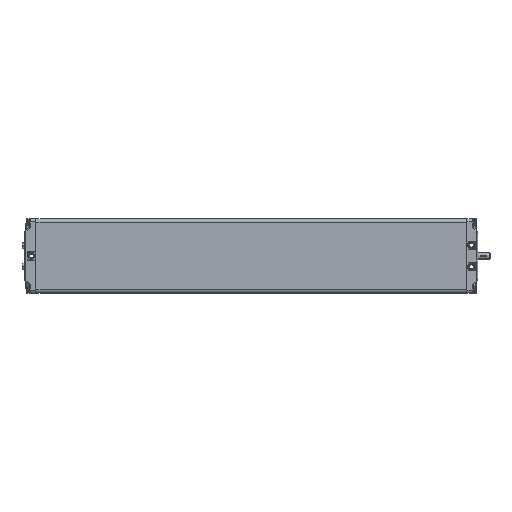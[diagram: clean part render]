
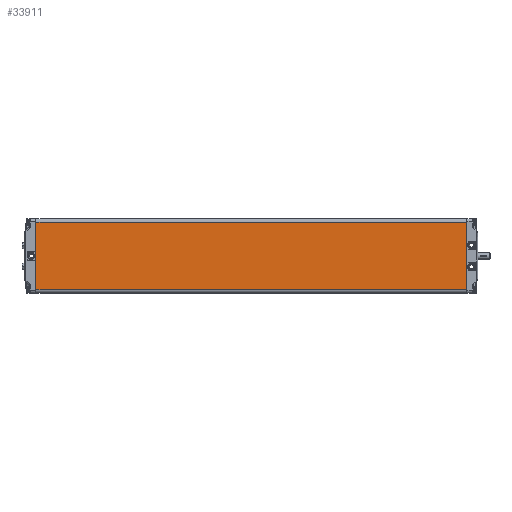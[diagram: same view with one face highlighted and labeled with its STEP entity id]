
A CAD part, top view. The second image highlights one B-rep face of the part: STEP entity #33911.
In plain terms, the highlighted planar face has unit normal (0, 0, 1).
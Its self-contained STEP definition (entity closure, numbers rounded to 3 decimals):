
#3531=LINE('',#72317,#4816);
#3532=LINE('',#72320,#4817);
#3533=LINE('',#72322,#4818);
#3534=LINE('',#72324,#4819);
#4816=VECTOR('',#41149,1000.);
#4817=VECTOR('',#41150,1000.);
#4818=VECTOR('',#41151,1000.);
#4819=VECTOR('',#41152,1000.);
#10116=ORIENTED_EDGE('',*,*,#16193,.T.);
#10117=ORIENTED_EDGE('',*,*,#16194,.T.);
#10118=ORIENTED_EDGE('',*,*,#16195,.T.);
#10119=ORIENTED_EDGE('',*,*,#16196,.T.);
#16193=EDGE_CURVE('',#19457,#19458,#3531,.F.);
#16194=EDGE_CURVE('',#19458,#19459,#3532,.T.);
#16195=EDGE_CURVE('',#19459,#19460,#3533,.T.);
#16196=EDGE_CURVE('',#19460,#19457,#3534,.F.);
#19457=VERTEX_POINT('',#72318);
#19458=VERTEX_POINT('',#72319);
#19459=VERTEX_POINT('',#72321);
#19460=VERTEX_POINT('',#72323);
#22955=EDGE_LOOP('',(#10116,#10117,#10118,#10119));
#24947=FACE_BOUND('',#22955,.T.);
#26093=PLANE('',#36180);
#33911=ADVANCED_FACE('',(#24947),#26093,.T.);
#36180=AXIS2_PLACEMENT_3D('',#72316,#41147,#41148);
#41147=DIRECTION('',(0.,0.,1.));
#41148=DIRECTION('',(1.,0.,0.));
#41149=DIRECTION('',(0.,-1.,0.));
#41150=DIRECTION('',(-1.,0.,0.));
#41151=DIRECTION('',(0.,-1.,0.));
#41152=DIRECTION('',(-1.,0.,0.));
#72316=CARTESIAN_POINT('',(60.,692.5,30.));
#72317=CARTESIAN_POINT('',(54.,692.5,30.));
#72318=CARTESIAN_POINT('',(54.,0.5,30.));
#72319=CARTESIAN_POINT('',(54.,692.,30.));
#72320=CARTESIAN_POINT('',(60.,692.,30.));
#72321=CARTESIAN_POINT('',(-54.,692.,30.));
#72322=CARTESIAN_POINT('',(-54.,692.5,30.));
#72323=CARTESIAN_POINT('',(-54.,0.5,30.));
#72324=CARTESIAN_POINT('',(54.,0.5,30.));
